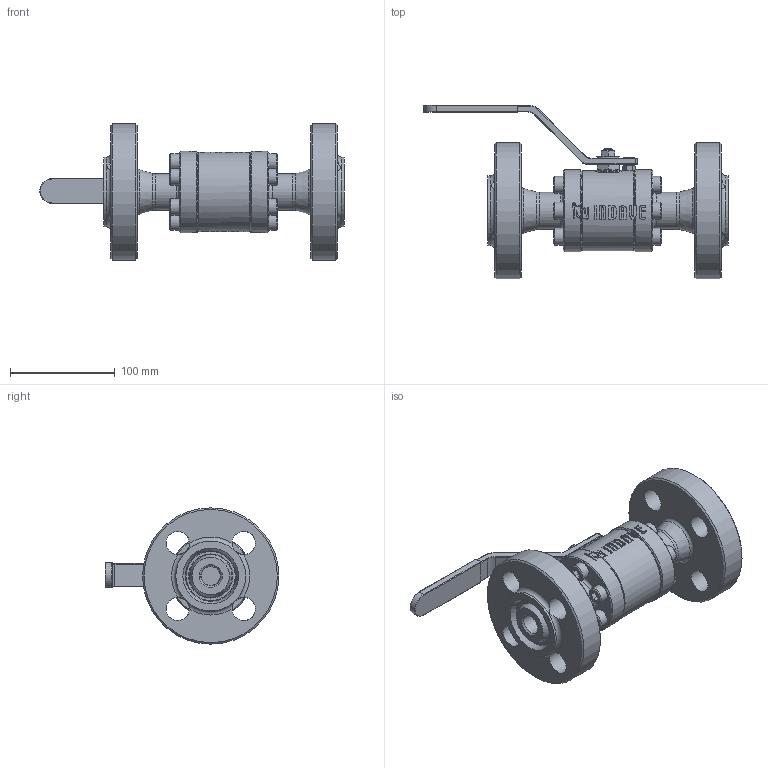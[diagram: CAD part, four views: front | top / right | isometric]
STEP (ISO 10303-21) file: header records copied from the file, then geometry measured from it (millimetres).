
FILE_DESCRIPTION(/* description */ (''),/* implementation_level */ '2;1');
FILE_NAME(/* name */ 'Ensamblaje1.stp',/* time_stamp */ '2025-05-16T14:51:38-03:00',/* author */ ('PC'),/* organization */ (''),/* preprocessor_version */ 'ST-DEVELOPER v20',/* originating_system */ 'Autodesk Inventor 2025',/* authorisation */ '');
FILE_SCHEMA (('AUTOMOTIVE_DESIGN { 1 0 10303 214 3 1 1 }'));
Length unit declared in the file: millimetre
Products named in the file (2): Ensamblaje1; Ensamblaje1_1
Assembly tree (1 placements, depth 2):
  Ensamblaje1
    Ensamblaje1_1
Bounding box: 290.14 x 165.72 x 130 mm (x, y, z)
Volume: 1108556.8 mm3; surface area: 164342 mm2
Topology: 4 solids, 16 shells, 718 faces, 1878 edges, 1201 vertices
Faces by surface type: plane 329, cylinder 174, cone 160, torus 34, bspline 20, sphere 1
Full cylindrical faces by diameter (mm): 2.223 x2, 6 x2, 7.92 x12, 8 x1, 10 x1, 12.96 x1, 16 x12, 18 x2, 21.6 x1, 22.22 x8, 35 x2, 66.5 x2, 75.975 x1, 78 x2, 130 x2
Entity records: 26511 total; most frequent: CARTESIAN_POINT 8854, ORIENTED_EDGE 3754, DIRECTION 3660, EDGE_CURVE 1877, AXIS2_PLACEMENT_3D 1368, VERTEX_POINT 1201, LINE 924, VECTOR 924
